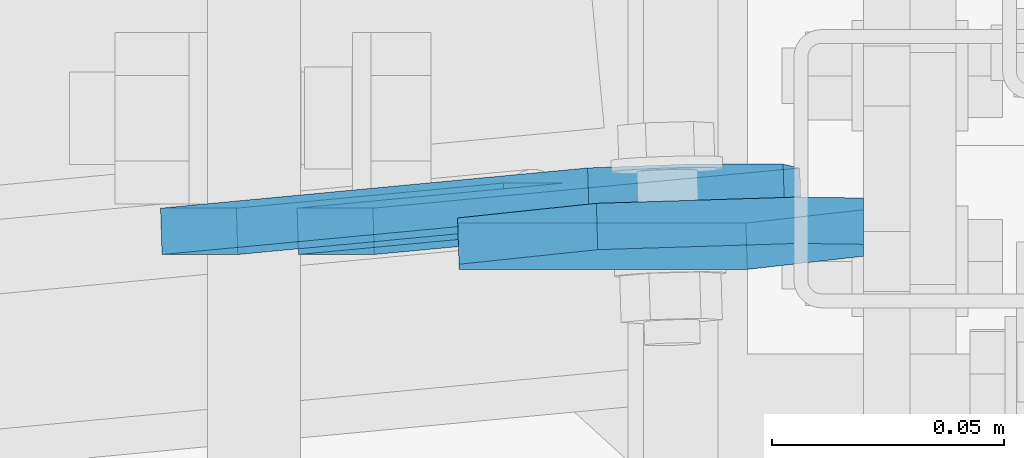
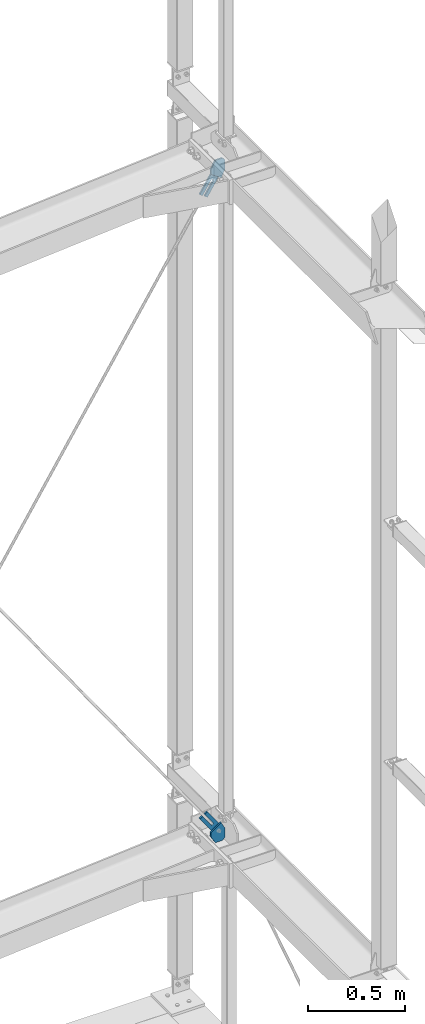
# One storey, part 187 of 271: 4 plates, 4 elements without a shape of their own.
"""IFC2X3 building model written with IfcOpenShell, lengths in millimetres."""

from ifc_helpers import new_model, si_unit, frame, origin_with_axes, place, context, subcontext, project, spatial, polyline, outline, extrude, boolean, material, type_object, element, aggregate, save


model = new_model("IFC2X3")

# Units and contexts
model_context = context("Model", 3, precision=1e-05, world=origin_with_axes())
body_context = subcontext(model_context, "Body", "Model", "MODEL_VIEW")
ifc_project = project(units=[si_unit("LENGTHUNIT", "METRE", prefix="MILLI"), si_unit("AREAUNIT", "SQUARE_METRE"), si_unit("VOLUMEUNIT", "CUBIC_METRE"), si_unit("MASSUNIT", "GRAM", prefix="KILO"), si_unit("TIMEUNIT", "SECOND"), si_unit("PLANEANGLEUNIT", "RADIAN"), si_unit("SOLIDANGLEUNIT", "STERADIAN"), si_unit("THERMODYNAMICTEMPERATUREUNIT", "DEGREE_CELSIUS"), si_unit("LUMINOUSINTENSITYUNIT", "LUMEN")], contexts=[model_context])

# Site, building, storey
site_placement = place(None, origin_with_axes())
site = spatial("IfcSite", under=ifc_project, at=site_placement, Name="Undefined", CompositionType="ELEMENT")
building_placement = place(site_placement, origin_with_axes())
building = spatial("IfcBuilding", under=site, at=building_placement, Name="Undefined", CompositionType="ELEMENT")
storey_placement = place(building_placement, origin_with_axes())
storey = spatial("IfcBuildingStorey", under=building, at=storey_placement, Name="Undefined", CompositionType="ELEMENT", Elevation=0.0)

# Assembly, plate
assembly_1_placement = place(storey_placement, origin_with_axes())
assembly_1 = element("IfcElementAssembly", 1, at=assembly_1_placement, inside=storey, AssemblyPlace="NOTDEFINED", PredefinedType="RIGID_FRAME")
ifc_material = material(Name="STEEL/S355JR")
plate_type_1 = type_object("IfcPlateType", Name="BL10*56", PredefinedType="NOTDEFINED")
plate_1_placement = place(assembly_1_placement, frame((12545.2164263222, 4287.34987446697, 1453.42456398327), z_axis=(-0.0312255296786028, 0.998530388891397, 0.0442947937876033), x_axis=(-0.171120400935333, 0.0383214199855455, -0.98450458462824)))
plate_1 = element("IfcPlate", 2, at=plate_1_placement, type_object=plate_type_1, material=ifc_material, Name="BLACHA", ObjectType="BL10*56", context=body_context, shape_type="SweptSolid", body=[
    extrude(outline(polyline([(0.0, 0.0), (21.2132034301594, 1.09139364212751e-11), (39.5979804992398, 18.3847751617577), (39.5979804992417, 39.5979804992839), (-73.5391082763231, 152.735061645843), (-87.6812438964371, 138.592926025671), (-16.9705638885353, 67.882247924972), (-28.2842712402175, 56.5685424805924), (-98.9949493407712, 127.279220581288), (-113.137084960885, 113.137084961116), (0.0, 0.0)])), frame((0.0, 0.0, -5.0), z_axis=(0.0, 0.0, 1.0), x_axis=(1.0, 0.0, 0.0)), (0.0, 0.0, 1.0), 10.0),
])
aggregate(assembly_1, [plate_1])

assembly_2_placement = place(storey_placement, origin_with_axes())
assembly_2 = element("IfcElementAssembly", 3, at=assembly_2_placement, inside=storey, AssemblyPlace="NOTDEFINED", PredefinedType="RIGID_FRAME")
plate_2_placement = place(assembly_2_placement, frame((12499.4460881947, 4287.34987445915, 5627.54114639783), z_axis=(-0.031225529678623, 0.998530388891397, -0.0442947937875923), x_axis=(0.984755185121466, 0.0383214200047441, 0.169672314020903)))
plate_2 = element("IfcPlate", 4, at=plate_2_placement, type_object=plate_type_1, material=ifc_material, Name="BLACHA", ObjectType="BL10*56", context=body_context, shape_type="SweptSolid", body=[
    extrude(outline(polyline([(0.0, 0.0), (21.2132034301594, 1.09139364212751e-11), (39.5979804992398, 18.3847751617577), (39.5979804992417, 39.5979804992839), (-73.5391082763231, 152.735061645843), (-87.6812438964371, 138.592926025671), (-16.9705638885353, 67.882247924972), (-28.2842712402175, 56.5685424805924), (-98.9949493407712, 127.279220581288), (-113.137084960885, 113.137084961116), (0.0, 0.0)])), frame((0.0, 0.0, -5.0), z_axis=(0.0, 0.0, 1.0), x_axis=(1.0, 0.0, 0.0)), (0.0, 0.0, 1.0), 10.0),
])
aggregate(assembly_2, [plate_2])

assembly_3_placement = place(storey_placement, origin_with_axes())
assembly_3 = element("IfcElementAssembly", 5, at=assembly_3_placement, inside=storey, AssemblyPlace="NOTDEFINED", PredefinedType="RIGID_FRAME")
plate_type_2 = type_object("IfcPlateType", Name="BL10*119", PredefinedType="NOTDEFINED")
plate_3_placement = place(assembly_3_placement, frame((12597.7212530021, 4282.74122226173, 1368.59224925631), z_axis=(-0.0312255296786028, 0.998530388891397, 0.0442947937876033), x_axis=(-0.999511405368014, -0.0312562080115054, 0.0)))
plate_3 = element("IfcPlate", 6, at=plate_3_placement, type_object=plate_type_2, material=ifc_material, Name="BLACHA", ObjectType="BL10*119", context=body_context, shape_type="CSG", body=[
    boolean("DIFFERENCE", boolean("DIFFERENCE", extrude(outline(polyline([(0.0, 0.0), (96.4382629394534, 1.38739788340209e-12), (126.438262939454, 50.0000000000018), (126.438262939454, 75.0000000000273), (64.3517227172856, 118.832199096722), (0.0, 0.0)])), frame((0.0, 0.0, -5.0), z_axis=(0.0, 0.0, 1.0), x_axis=(1.0, 0.0, 0.0)), (0.0, 0.0, 1.0), 10.0), extrude(outline(polyline([(0.0, 0.0), (15.0, -1.59872115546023e-14), (0.0207920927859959, 15.0207634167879), (0.0207920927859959, 15.0207634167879), (0.0, 0.0)])), frame((38.83227707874, -0.322875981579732, 5.00000006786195), z_axis=(0.0, 0.0, -1.0), x_axis=(0.00138516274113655, 0.99999904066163, 4.69801683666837e-10)), (0.0, 0.0, 1.0), 10.0)), extrude(outline(polyline([(0.0, 0.0), (253.0, 0.0), (253.0, 110.0), (213.0, 150.0), (40.0, 150.0), (0.0, 110.0), (0.0, 0.0)])), frame((43.0000070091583, 4.74020587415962, -128.182168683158), z_axis=(-0.999511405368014, 0.0013844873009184, -0.0312255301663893), x_axis=(-0.0312562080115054, -0.0442731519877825, 0.99853038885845)), (0.0, 0.0, 1.0), 100.0)),
])
aggregate(assembly_3, [plate_3])

assembly_4_placement = place(storey_placement, origin_with_axes())
assembly_4 = element("IfcElementAssembly", 7, at=assembly_4_placement, inside=storey, AssemblyPlace="NOTDEFINED", PredefinedType="RIGID_FRAME")
plate_4_placement = place(assembly_4_placement, frame((12471.3447673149, 4278.78924167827, 5680.10775055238), z_axis=(-0.031225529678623, 0.998530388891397, -0.0442947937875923), x_axis=(0.999511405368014, 0.0312562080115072, 0.0)))
plate_4 = element("IfcPlate", 8, at=plate_4_placement, type_object=plate_type_2, material=ifc_material, Name="BLACHA", ObjectType="BL10*119", context=body_context, shape_type="CSG", body=[
    boolean("DIFFERENCE", boolean("DIFFERENCE", extrude(outline(polyline([(-2.52953213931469e-12, 50.0), (30.0, 1.17239551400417e-13), (126.438262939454, 3.5313973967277e-12), (62.0865364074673, 118.832199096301), (-3.89910326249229e-12, 74.99999999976), (-2.52953213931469e-12, 50.0)])), frame((0.0, 0.0, -5.0), z_axis=(0.0, 0.0, 1.0), x_axis=(1.0, 0.0, 0.0)), (0.0, 0.0, 1.0), 10.0), extrude(outline(polyline([(0.0, 0.0), (15.0, -1.59872115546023e-14), (0.0207920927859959, 15.0207634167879), (0.0207920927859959, 15.0207634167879), (0.0, 0.0)])), frame((87.6059856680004, -0.322875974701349, -4.99999998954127), z_axis=(0.0, 0.0, 1.0), x_axis=(-0.00138516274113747, 0.99999904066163, 4.69774913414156e-10)), (0.0, 0.0, 1.0), 10.0)), extrude(outline(polyline([(0.0, 0.0), (253.0, 0.0), (253.0, 110.0), (213.0, 150.0), (40.0, 150.0), (0.0, 110.0), (0.0, 0.0)])), frame((91.3460763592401, -6.46090157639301, 124.446019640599), z_axis=(0.999511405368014, 0.00138448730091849, -0.0312255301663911), x_axis=(-0.0312562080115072, 0.0442731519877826, -0.99853038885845)), (0.0, 0.0, 1.0), 100.0)),
])
aggregate(assembly_4, [plate_4])

save(model, "model.ifc")
